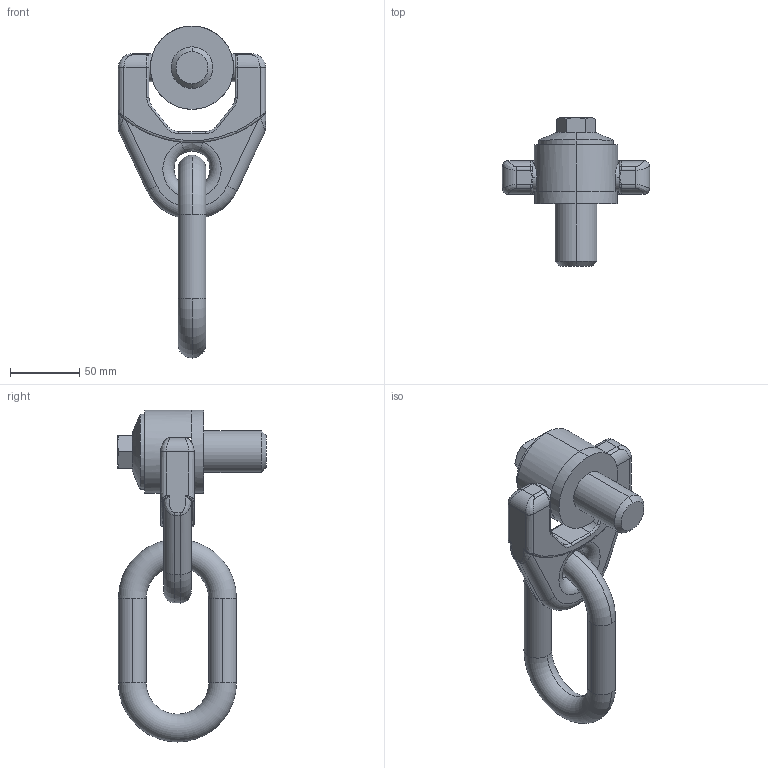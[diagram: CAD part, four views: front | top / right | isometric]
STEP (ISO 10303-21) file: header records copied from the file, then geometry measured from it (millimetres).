
FILE_DESCRIPTION (( 'STEP AP203' ), '1' );
FILE_NAME ('63150.W0030.step', '2013-12-13T11:53:01', ( 'User' ), ( '' ), 'SwSTEP 2.0', 'SolidWorks 2009', '' );
FILE_SCHEMA (( 'CONFIG_CONTROL_DESIGN' ));
Length unit declared in the file: millimetre
Products named in the file (4): Part1_63150.W0030; Part2C; Part3_63150.W0030; 63150.W0030
Assembly tree (3 placements, depth 2):
  63150.W0030
    Part1_63150.W0030
    Part2C
    Part3_63150.W0030
Bounding box: 106 x 107 x 239 mm (x, y, z)
Volume: 398927.1 mm3; surface area: 68897.1 mm2
Topology: 3 solids, 3 shells, 170 faces, 419 edges, 247 vertices
Faces by surface type: cylinder 54, bspline 46, plane 38, torus 22, cone 10
Entity records: 7536 total; most frequent: CARTESIAN_POINT 3436, ORIENTED_EDGE 826, DIRECTION 734, EDGE_CURVE 413, AXIS2_PLACEMENT_3D 305, VERTEX_POINT 247, CIRCLE 175, EDGE_LOOP 174
